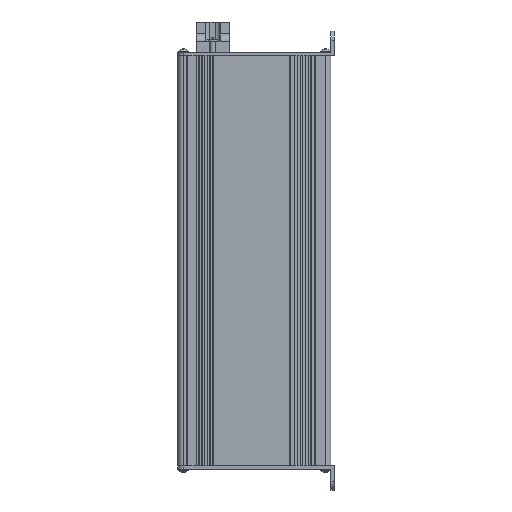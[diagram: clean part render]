
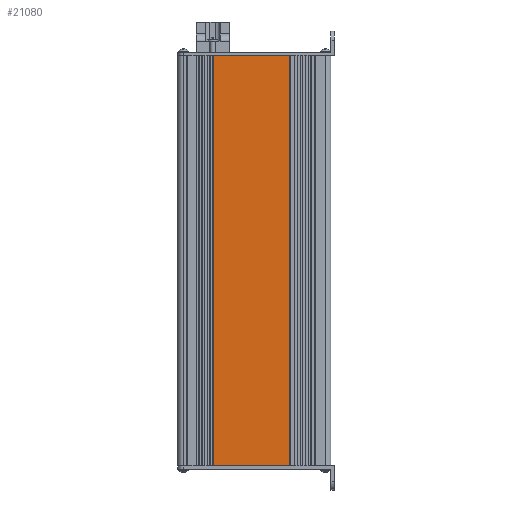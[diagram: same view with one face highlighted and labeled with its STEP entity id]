
A CAD part, left-side view. The second image highlights one B-rep face of the part: STEP entity #21080.
In plain terms, the highlighted planar face has unit normal (-1, 0, 0).
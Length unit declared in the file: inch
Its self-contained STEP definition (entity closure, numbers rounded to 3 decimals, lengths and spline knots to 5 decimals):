
#1573=LINE('',#30949,#3342);
#1574=LINE('',#30952,#3343);
#1575=LINE('',#30954,#3344);
#1576=LINE('',#30955,#3345);
#3342=VECTOR('',#24926,0.3937);
#3343=VECTOR('',#24929,0.3937);
#3344=VECTOR('',#24930,0.3937);
#3345=VECTOR('',#24931,0.3937);
#5351=FACE_OUTER_BOUND('',#6483,.T.);
#6483=EDGE_LOOP('',(#14397,#14398,#14399,#14400));
#8897=VERTEX_POINT('',#30945);
#8898=VERTEX_POINT('',#30947);
#8899=VERTEX_POINT('',#30951);
#8900=VERTEX_POINT('',#30953);
#11092=EDGE_CURVE('',#8897,#8898,#1573,.T.);
#11093=EDGE_CURVE('',#8897,#8899,#1574,.T.);
#11094=EDGE_CURVE('',#8900,#8898,#1575,.T.);
#11095=EDGE_CURVE('',#8899,#8900,#1576,.T.);
#14397=ORIENTED_EDGE('',*,*,#11093,.F.);
#14398=ORIENTED_EDGE('',*,*,#11092,.T.);
#14399=ORIENTED_EDGE('',*,*,#11094,.F.);
#14400=ORIENTED_EDGE('',*,*,#11095,.F.);
#20419=PLANE('',#22363);
#21080=ADVANCED_FACE('',(#5351),#20419,.T.);
#22363=AXIS2_PLACEMENT_3D('',#30950,#24927,#24928);
#24926=DIRECTION('',(0.,0.,1.));
#24927=DIRECTION('center_axis',(-1.,0.,0.));
#24928=DIRECTION('ref_axis',(0.,-1.,0.));
#24929=DIRECTION('',(0.,1.,0.));
#24930=DIRECTION('',(0.,-1.,0.));
#24931=DIRECTION('',(0.,0.,1.));
#30945=CARTESIAN_POINT('',(-1.80787,-1.74407,-16.25532));
#30947=CARTESIAN_POINT('',(-1.80787,-1.74407,-1.49154));
#30949=CARTESIAN_POINT('',(-1.80787,-1.74407,-16.25532));
#30950=CARTESIAN_POINT('Origin',(-1.80787,1.01184,-16.25532));
#30951=CARTESIAN_POINT('',(-1.80787,1.01184,-16.25532));
#30952=CARTESIAN_POINT('',(-1.80787,0.24231,-16.25532));
#30953=CARTESIAN_POINT('',(-1.80787,1.01184,-1.49154));
#30954=CARTESIAN_POINT('',(-1.80787,0.24231,-1.49154));
#30955=CARTESIAN_POINT('',(-1.80787,1.01184,-16.25532));
